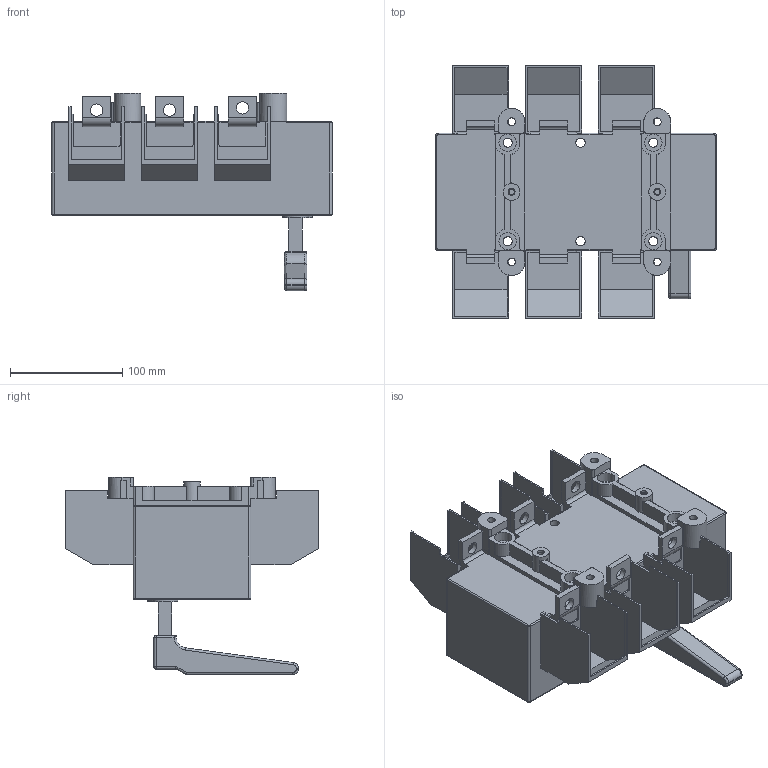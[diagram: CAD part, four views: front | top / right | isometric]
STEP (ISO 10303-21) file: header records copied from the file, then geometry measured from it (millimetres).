
FILE_DESCRIPTION(/* description */ (''),/* implementation_level */ '2;1');
FILE_NAME(/* name */ 'RA630 P3 C-R z oslona zaciskow.stp',/* time_stamp */ '2021-08-19T08:46:37+02:00',/* author */ (''),/* organization */ (''),/* preprocessor_version */ 'ST-DEVELOPER v18.1',/* originating_system */ 'SIEMENS PLM Software NX 1965',/* authorisation */ '');
FILE_SCHEMA (('AUTOMOTIVE_DESIGN { 1 0 10303 214 3 1 1 1 }'));
Length unit declared in the file: millimetre
Products named in the file (1): RA630 P3 C-R z oslona zaciskow
Bounding box: 250 x 225 x 176 mm (x, y, z)
Volume: 2440583.2 mm3; surface area: 298425.1 mm2
Topology: 1 solids, 1 shells, 426 faces, 1207 edges, 779 vertices
Faces by surface type: plane 271, cylinder 133, bspline 8, torus 8, sphere 6
Full cylindrical faces by diameter (mm): 4.8 x2, 6.2 x2, 7 x4, 8.2 x6, 11 x6, 14 x4, 15 x2, 15.5 x4
Entity records: 13711 total; most frequent: CARTESIAN_POINT 2523, ORIENTED_EDGE 2326, DIRECTION 2303, EDGE_CURVE 1163, LINE 853, VECTOR 853, VERTEX_POINT 768, AXIS2_PLACEMENT_3D 725
